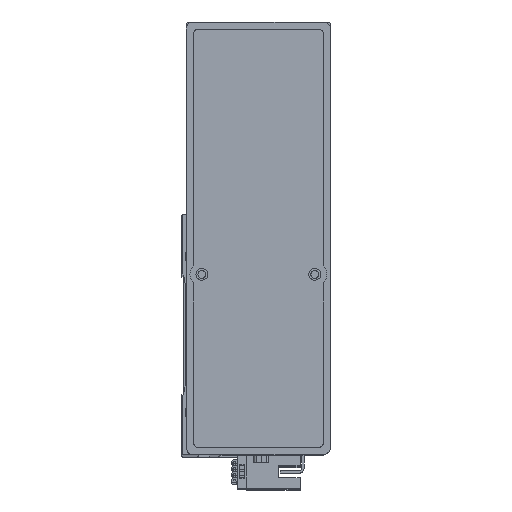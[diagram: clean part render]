
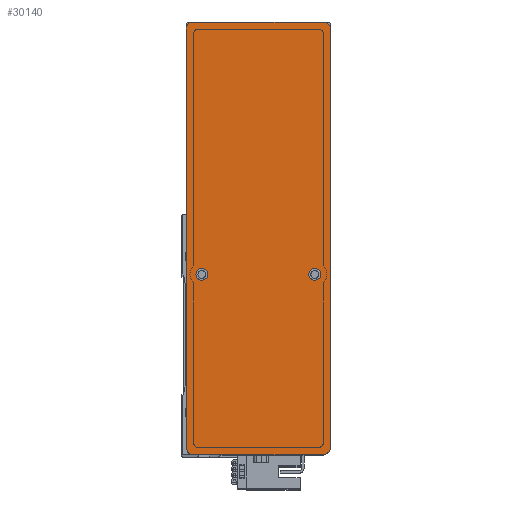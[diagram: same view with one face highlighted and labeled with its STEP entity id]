
A CAD part, top view. The second image highlights one B-rep face of the part: STEP entity #30140.
In plain terms, the highlighted planar face has unit normal (0, 0, 1) as drawn and (0, 0, -1) by its records, which use the part's own axes.
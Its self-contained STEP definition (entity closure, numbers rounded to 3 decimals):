
#54 = DIRECTION ( 'NONE',  ( -1., 0., 0. ) ) ;
#130 = ORIENTED_EDGE ( 'NONE', *, *, #25189, .T. ) ;
#158 = EDGE_CURVE ( 'NONE', #18455, #35298, #37682, .T. ) ;
#639 = CIRCLE ( 'NONE', #10458, 3. ) ;
#1611 = VERTEX_POINT ( 'NONE', #40512 ) ;
#2394 = CARTESIAN_POINT ( 'NONE',  ( 0., 0., 0. ) ) ;
#3497 = CIRCLE ( 'NONE', #32584, 2.5 ) ;
#4562 = ORIENTED_EDGE ( 'NONE', *, *, #9516, .F. ) ;
#5032 = LINE ( 'NONE', #13188, #22573 ) ;
#5699 = LINE ( 'NONE', #42343, #22170 ) ;
#5740 = DIRECTION ( 'NONE',  ( 0., 0., -1. ) ) ;
#5836 = CARTESIAN_POINT ( 'NONE',  ( -87., 30., 0. ) ) ;
#5938 = DIRECTION ( 'NONE',  ( 0., 1., 0. ) ) ;
#6210 = EDGE_CURVE ( 'NONE', #1611, #15438, #13793, .T. ) ;
#7744 = FACE_OUTER_BOUND ( 'NONE', #24068, .T. ) ;
#8355 = ORIENTED_EDGE ( 'NONE', *, *, #19831, .F. ) ;
#8991 = LINE ( 'NONE', #42552, #34334 ) ;
#9070 = DIRECTION ( 'NONE',  ( 0., 0., 1. ) ) ;
#9169 = ORIENTED_EDGE ( 'NONE', *, *, #18339, .F. ) ;
#9180 = CARTESIAN_POINT ( 'NONE',  ( -15., -23.5, 0. ) ) ;
#9271 = CARTESIAN_POINT ( 'NONE',  ( -87., -27., 0. ) ) ;
#9424 = EDGE_LOOP ( 'NONE', ( #15313, #8355 ) ) ;
#9516 = EDGE_CURVE ( 'NONE', #23096, #35298, #5699, .T. ) ;
#9584 = VERTEX_POINT ( 'NONE', #29602 ) ;
#10271 = AXIS2_PLACEMENT_3D ( 'NONE', #9271, #32390, #12530 ) ;
#10458 = AXIS2_PLACEMENT_3D ( 'NONE', #18835, #42008, #22153 ) ;
#10936 = EDGE_LOOP ( 'NONE', ( #15008, #13143 ) ) ;
#11556 = CARTESIAN_POINT ( 'NONE',  ( -90., -27., 0. ) ) ;
#11595 = CIRCLE ( 'NONE', #10271, 3. ) ;
#12442 = DIRECTION ( 'NONE',  ( -1., 0., 0. ) ) ;
#12496 = DIRECTION ( 'NONE',  ( 0., 0., -1. ) ) ;
#12530 = DIRECTION ( 'NONE',  ( 1., 0., 0. ) ) ;
#12975 = ORIENTED_EDGE ( 'NONE', *, *, #42333, .F. ) ;
#13143 = ORIENTED_EDGE ( 'NONE', *, *, #6210, .F. ) ;
#13188 = CARTESIAN_POINT ( 'NONE',  ( 90., 30., 0. ) ) ;
#13744 = DIRECTION ( 'NONE',  ( 0., -1., 0. ) ) ;
#13793 = CIRCLE ( 'NONE', #23482, 2.5 ) ;
#14078 = DIRECTION ( 'NONE',  ( 1., 0., 0. ) ) ;
#14886 = EDGE_CURVE ( 'NONE', #23096, #9584, #639, .T. ) ;
#15008 = ORIENTED_EDGE ( 'NONE', *, *, #18231, .F. ) ;
#15313 = ORIENTED_EDGE ( 'NONE', *, *, #36327, .F. ) ;
#15438 = VERTEX_POINT ( 'NONE', #39071 ) ;
#15718 = CARTESIAN_POINT ( 'NONE',  ( -87., 27., 0. ) ) ;
#16452 = FACE_BOUND ( 'NONE', #9424, .T. ) ;
#16650 = EDGE_CURVE ( 'NONE', #18455, #40949, #5032, .T. ) ;
#18056 = AXIS2_PLACEMENT_3D ( 'NONE', #2394, #9070, #32188 ) ;
#18231 = EDGE_CURVE ( 'NONE', #15438, #1611, #22938, .T. ) ;
#18339 = EDGE_CURVE ( 'NONE', #35775, #9584, #8991, .T. ) ;
#18455 = VERTEX_POINT ( 'NONE', #33595 ) ;
#18541 = ORIENTED_EDGE ( 'NONE', *, *, #14886, .T. ) ;
#18592 = VERTEX_POINT ( 'NONE', #11556 ) ;
#18835 = CARTESIAN_POINT ( 'NONE',  ( 87., -27., 0. ) ) ;
#18965 = CIRCLE ( 'NONE', #41120, 3. ) ;
#19005 = VERTEX_POINT ( 'NONE', #37578 ) ;
#19057 = DIRECTION ( 'NONE',  ( 1., 0., 0. ) ) ;
#19831 = EDGE_CURVE ( 'NONE', #19005, #30992, #3497, .T. ) ;
#19846 = DIRECTION ( 'NONE',  ( 0., 0., -1. ) ) ;
#22153 = DIRECTION ( 'NONE',  ( 1., 0., 0. ) ) ;
#22170 = VECTOR ( 'NONE', #5938, 1000. ) ;
#22237 = ORIENTED_EDGE ( 'NONE', *, *, #40010, .T. ) ;
#22573 = VECTOR ( 'NONE', #36254, 1000. ) ;
#22706 = DIRECTION ( 'NONE',  ( 1., 0., 0. ) ) ;
#22938 = CIRCLE ( 'NONE', #28889, 2.5 ) ;
#23096 = VERTEX_POINT ( 'NONE', #39221 ) ;
#23328 = DIRECTION ( 'NONE',  ( 0., 0., -1. ) ) ;
#23482 = AXIS2_PLACEMENT_3D ( 'NONE', #32355, #12496, #35678 ) ;
#24068 = EDGE_LOOP ( 'NONE', ( #4562, #18541, #9169, #22237, #12975, #130, #42220, #39354 ) ) ;
#24370 = CARTESIAN_POINT ( 'NONE',  ( 87., 27., 0. ) ) ;
#25189 = EDGE_CURVE ( 'NONE', #31769, #40949, #18965, .T. ) ;
#25506 = CARTESIAN_POINT ( 'NONE',  ( -15., 23.5, 0. ) ) ;
#25535 = PLANE ( 'NONE',  #18056 ) ;
#28834 = DIRECTION ( 'NONE',  ( -1., 0., 0. ) ) ;
#28889 = AXIS2_PLACEMENT_3D ( 'NONE', #9180, #32298, #12442 ) ;
#29303 = CARTESIAN_POINT ( 'NONE',  ( -87., -30., 0. ) ) ;
#29602 = CARTESIAN_POINT ( 'NONE',  ( 87., -30., 0. ) ) ;
#29726 = VECTOR ( 'NONE', #13744, 1000. ) ;
#30140 = ADVANCED_FACE ( 'NONE', ( #16452, #34098, #7744 ), #25535, .F. ) ;
#30290 = CARTESIAN_POINT ( 'NONE',  ( -90., -30., 0. ) ) ;
#30992 = VERTEX_POINT ( 'NONE', #38146 ) ;
#31769 = VERTEX_POINT ( 'NONE', #36108 ) ;
#32188 = DIRECTION ( 'NONE',  ( 1., 0., 0. ) ) ;
#32298 = DIRECTION ( 'NONE',  ( 0., 0., -1. ) ) ;
#32355 = CARTESIAN_POINT ( 'NONE',  ( -15., -23.5, 0. ) ) ;
#32390 = DIRECTION ( 'NONE',  ( 0., 0., -1. ) ) ;
#32584 = AXIS2_PLACEMENT_3D ( 'NONE', #25506, #5740, #28834 ) ;
#32817 = AXIS2_PLACEMENT_3D ( 'NONE', #39681, #19846, #54 ) ;
#33595 = CARTESIAN_POINT ( 'NONE',  ( 87., 30., 0. ) ) ;
#34098 = FACE_BOUND ( 'NONE', #10936, .T. ) ;
#34334 = VECTOR ( 'NONE', #22706, 1000. ) ;
#35298 = VERTEX_POINT ( 'NONE', #37618 ) ;
#35678 = DIRECTION ( 'NONE',  ( -1., 0., 0. ) ) ;
#35775 = VERTEX_POINT ( 'NONE', #29303 ) ;
#36108 = CARTESIAN_POINT ( 'NONE',  ( -90., 27., 0. ) ) ;
#36254 = DIRECTION ( 'NONE',  ( -1., 0., 0. ) ) ;
#36327 = EDGE_CURVE ( 'NONE', #30992, #19005, #41305, .T. ) ;
#37578 = CARTESIAN_POINT ( 'NONE',  ( -12.5, 23.5, 0. ) ) ;
#37618 = CARTESIAN_POINT ( 'NONE',  ( 90., 27., 0. ) ) ;
#37682 = CIRCLE ( 'NONE', #38178, 3. ) ;
#38146 = CARTESIAN_POINT ( 'NONE',  ( -17.5, 23.5, 0. ) ) ;
#38178 = AXIS2_PLACEMENT_3D ( 'NONE', #24370, #23328, #14078 ) ;
#38493 = LINE ( 'NONE', #30290, #29726 ) ;
#38889 = DIRECTION ( 'NONE',  ( 0., 0., -1. ) ) ;
#39071 = CARTESIAN_POINT ( 'NONE',  ( -17.5, -23.5, 0. ) ) ;
#39221 = CARTESIAN_POINT ( 'NONE',  ( 90., -27., 0. ) ) ;
#39354 = ORIENTED_EDGE ( 'NONE', *, *, #158, .T. ) ;
#39681 = CARTESIAN_POINT ( 'NONE',  ( -15., 23.5, 0. ) ) ;
#40010 = EDGE_CURVE ( 'NONE', #35775, #18592, #11595, .T. ) ;
#40512 = CARTESIAN_POINT ( 'NONE',  ( -12.5, -23.5, 0. ) ) ;
#40949 = VERTEX_POINT ( 'NONE', #5836 ) ;
#41120 = AXIS2_PLACEMENT_3D ( 'NONE', #15718, #38889, #19057 ) ;
#41305 = CIRCLE ( 'NONE', #32817, 2.5 ) ;
#42008 = DIRECTION ( 'NONE',  ( 0., 0., -1. ) ) ;
#42220 = ORIENTED_EDGE ( 'NONE', *, *, #16650, .F. ) ;
#42333 = EDGE_CURVE ( 'NONE', #31769, #18592, #38493, .T. ) ;
#42343 = CARTESIAN_POINT ( 'NONE',  ( 90., -30., 0. ) ) ;
#42552 = CARTESIAN_POINT ( 'NONE',  ( 90., -30., 0. ) ) ;
